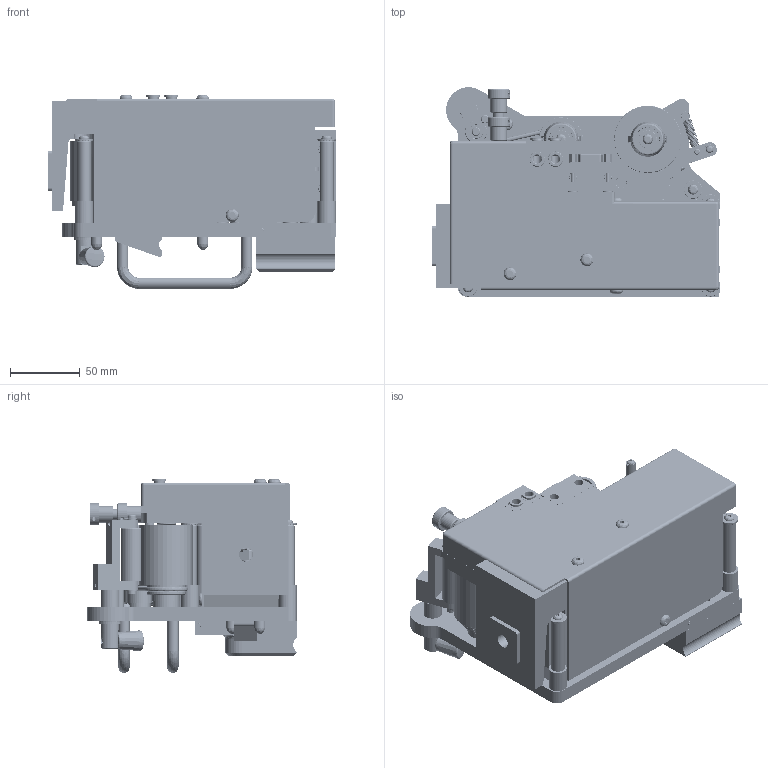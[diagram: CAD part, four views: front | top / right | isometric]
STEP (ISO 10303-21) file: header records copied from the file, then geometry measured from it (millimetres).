
FILE_DESCRIPTION (( 'STEP AP214' ), '1' );
FILE_NAME ('Eurocode 150.STEP', '2013-06-28T07:13:52', ( 'lesliemead' ), ( '' ), 'SwSTEP 2.0', 'SolidWorks 2012', '' );
FILE_SCHEMA (( 'AUTOMOTIVE_DESIGN' ));
Products named in the file (147): ADJ 620207_1; SCR 620028_1; NUT 620027_1; RPINM3S10_1; WAS 620065_1; M4SSS05_1; SUP 620031_1; PUL 620030_1; BEA 520018_1; BEA 521507_1; PLU 399415_RS 446-462_1; SWI 395011_1; BEA 521008_1; PLU 120020_1; Assembly Magazine 150_1; M4CSS20_1; SPI 620013_1; M5SSS06_1; DOO 620203_1; HIN 122006_1; MAG 531001_1; M3DOP10_1; DOO 620004_1; M4CSS25_1; HUB 620202-1_1; DIS 121009-7_1; PAN25606 (Screw Inches)_1; DRI 120052-16_1; SPI 620007_1; SPA 120042_1; SPI 620003_1; M3SSS05_1; LAB 506501_1; SUP 190024_1; DRI 620204_1; WAS 620016_1; BEA 521504_1; SEA 512034_1; LOC 620129_1; HUB 620201_1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
Assembly tree (236 placements, depth 5):
  Eurocode 150
    COV 620034-1_1
    PUL 620033_1
    M5SSS08_1
    M3WAS_1  x2
    SPI 620024_1
    M5SSS05_1
    M4SCS30_1  x2
    M6SCS20_1  x4
    LOC 620032_1  x2
    M5BHS08_1  x5
    M2.5PHS06_1  x4
    BLO 620043_1
    OR 512030_1
    HEA 620229_1
      M4SCS10_1  x5
      M4SCS40_1  x4
      PAC 190028_1
      M4WASSHK_.250  x4
      HEA 120013_1
      SID 120014_1  x2
      PLA 620228_1
        PIN 620022_1
        PLA 620026_1
      PIS 620200_1
        PIS 620020_1
        SEA 512036_1
          SEA 512036_1
          O-R 512036_1
      M10HALFNUT_1
      CAP 620227_1
        BEA 520017_1
        O-R 512005_1
        SEA 512038_1
        CAP 620021_1
        BEA 620070_1
        DAM 120074_1
        M8SSS08_1
      M3SCS10_1  x2
      INS 120012_1
      KEE 120030_1
      FOR 620208_1
        ROL 620061_1
        M3DOP18_1
        FOR 190046_1
    M4CSS10_1  x3
    LEV 620110_1
    Eurocode Body_1
    M3SCS12_1  x2
    BEA 521001_1
    CAR 511540_1  x4
    SCR 120070_1  x2
    SCRM2.5PH06_1  x2
    Torsion Spring_1
    M2CSS12_1  x2
    CLI507321_1
    SPR 531010_1  x2
    M3NUT_1  x2
    M8SSS08_1
    SPI 620029_1
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Bounding box: 206.45 x 149.79 x 138.6 mm (x, y, z)
Volume: 1214343.9 mm3; surface area: 522550.3 mm2
Topology: 227 solids, 229 shells, 5949 faces, 14295 edges, 9135 vertices
Faces by surface type: plane 2277, cylinder 2254, bspline 710, cone 708
Entity records: 153657 total; most frequent: CARTESIAN_POINT 47734, DIRECTION 21447, ORIENTED_EDGE 20295, EDGE_CURVE 10148, AXIS2_PLACEMENT_3D 8077, VERTEX_POINT 6525, VECTOR 5293, LINE 5293
